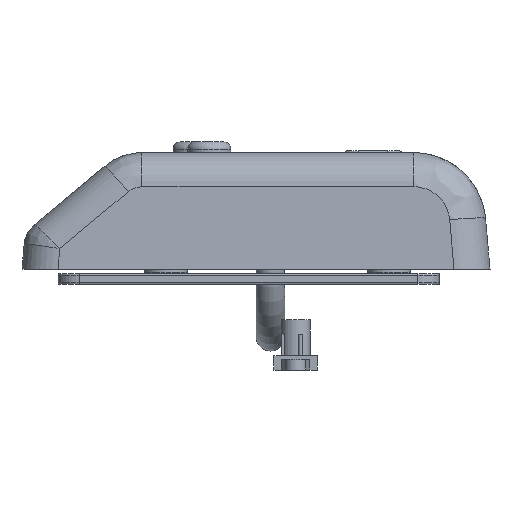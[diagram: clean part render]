
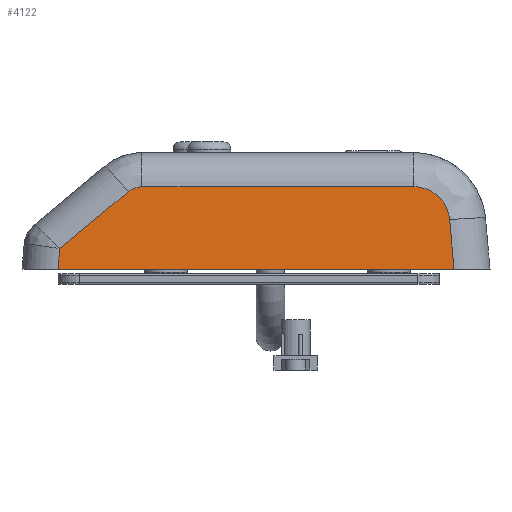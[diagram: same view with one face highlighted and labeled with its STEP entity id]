
A CAD part, left-side view. The second image highlights one B-rep face of the part: STEP entity #4122.
In plain terms, the highlighted planar face has unit normal (-0.999, 0, 0.052).
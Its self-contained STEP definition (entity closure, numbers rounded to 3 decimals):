
#82=ELLIPSE('',#14784,3.004,3.);
#83=ELLIPSE('',#14785,5.007,5.);
#3490=FACE_OUTER_BOUND('',#6074,.T.);
#4122=ADVANCED_FACE('',(#3490),#4516,.F.);
#4516=PLANE('',#14786);
#6074=EDGE_LOOP('',(#9088,#9089,#9090,#9091,#9092,#9093,#9094));
#9088=ORIENTED_EDGE('',*,*,#12117,.T.);
#9089=ORIENTED_EDGE('',*,*,#12120,.T.);
#9090=ORIENTED_EDGE('',*,*,#12121,.T.);
#9091=ORIENTED_EDGE('',*,*,#12122,.T.);
#9092=ORIENTED_EDGE('',*,*,#12095,.T.);
#9093=ORIENTED_EDGE('',*,*,#12123,.T.);
#9094=ORIENTED_EDGE('',*,*,#12124,.T.);
#10620=VERTEX_POINT('',#23629);
#10621=VERTEX_POINT('',#23630);
#10640=VERTEX_POINT('',#23673);
#10641=VERTEX_POINT('',#23674);
#10642=VERTEX_POINT('',#23679);
#10643=VERTEX_POINT('',#23681);
#10644=VERTEX_POINT('',#23684);
#12095=EDGE_CURVE('',#10620,#10621,#13123,.T.);
#12117=EDGE_CURVE('',#10640,#10641,#13133,.T.);
#12120=EDGE_CURVE('',#10641,#10642,#82,.T.);
#12121=EDGE_CURVE('',#10642,#10643,#13134,.T.);
#12122=EDGE_CURVE('',#10643,#10620,#13135,.T.);
#12123=EDGE_CURVE('',#10621,#10644,#13136,.T.);
#12124=EDGE_CURVE('',#10644,#10640,#83,.T.);
#13123=LINE('',#23628,#14203);
#13133=LINE('',#23672,#14213);
#13134=LINE('',#23680,#14214);
#13135=LINE('',#23682,#14215);
#13136=LINE('',#23683,#14216);
#14203=VECTOR('',#16861,1.);
#14213=VECTOR('',#16899,1.);
#14214=VECTOR('',#16908,1.);
#14215=VECTOR('',#16909,1.);
#14216=VECTOR('',#16910,1.);
#14784=AXIS2_PLACEMENT_3D('',#23678,#16906,#16907);
#14785=AXIS2_PLACEMENT_3D('',#23685,#16911,#16912);
#14786=AXIS2_PLACEMENT_3D('',#23686,#16913,#16914);
#16861=DIRECTION('',(0.,-1.,0.));
#16899=DIRECTION('',(0.,1.,0.));
#16906=DIRECTION('',(-0.999,0.,0.052));
#16907=DIRECTION('',(0.052,0.,0.999));
#16908=DIRECTION('',(-0.034,0.768,-0.64));
#16909=DIRECTION('',(-0.052,0.087,-0.995));
#16910=DIRECTION('',(0.052,0.087,0.995));
#16911=DIRECTION('',(-0.999,0.,0.052));
#16912=DIRECTION('',(0.052,0.,0.999));
#16913=DIRECTION('',(0.999,0.,-0.052));
#16914=DIRECTION('',(0.052,0.,0.999));
#23628=CARTESIAN_POINT('',(-32.005,-29.995,0.));
#23629=CARTESIAN_POINT('',(-32.005,33.013,0.));
#23630=CARTESIAN_POINT('',(-32.005,-22.013,0.));
#23672=CARTESIAN_POINT('',(-31.405,29.356,11.462));
#23673=CARTESIAN_POINT('',(-31.405,-16.428,11.462));
#23674=CARTESIAN_POINT('',(-31.405,21.356,11.462));
#23678=CARTESIAN_POINT('',(-31.562,21.356,8.462));
#23679=CARTESIAN_POINT('',(-31.441,23.276,10.766));
#23680=CARTESIAN_POINT('',(-31.875,33.206,2.493));
#23681=CARTESIAN_POINT('',(-31.855,32.762,2.862));
#23682=CARTESIAN_POINT('',(-31.655,32.428,6.681));
#23683=CARTESIAN_POINT('',(-31.657,-21.432,6.639));
#23684=CARTESIAN_POINT('',(-31.644,-21.409,6.897));
#23685=CARTESIAN_POINT('',(-31.667,-16.428,6.462));
#23686=CARTESIAN_POINT('',(-32.,-35.,0.1));
